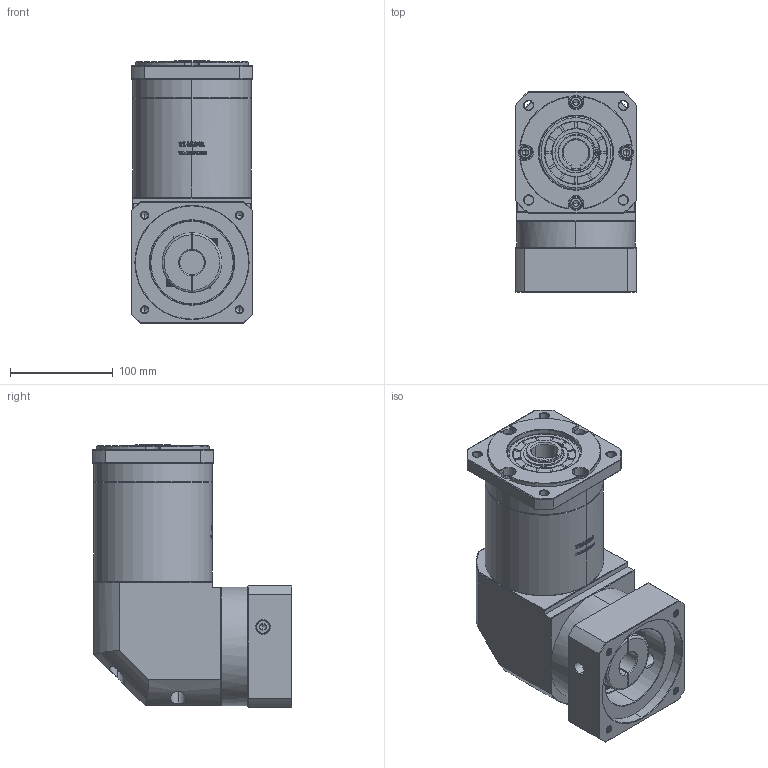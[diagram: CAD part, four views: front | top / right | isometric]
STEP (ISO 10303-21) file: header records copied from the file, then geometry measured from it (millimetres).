
FILE_DESCRIPTION (( 'STEP AP214' ), '1' );
FILE_NAME ('ZFR120A-K25-L3-24-110-130-M8.step', '2023-03-08T08:33:45', ( '' ), ( '' ), 'SwSTEP 2.0', 'SolidWorks 2016', '' );
FILE_SCHEMA (( 'AUTOMOTIVE_DESIGN' ));
Length unit declared in the file: millimetre
Products named in the file (1): ZFR120A-K25-L3-24-110-130-M8
Bounding box: 118 x 193.9 x 255 mm (x, y, z)
Volume: 3417899.6 mm3; surface area: 262725.9 mm2
Topology: 6 solids, 6 shells, 2814 faces, 7535 edges, 4866 vertices
Faces by surface type: plane 1477, bspline 597, cylinder 401, cone 331, torus 8
Entity records: 152484 total; most frequent: CARTESIAN_POINT 56817, ORIENTED_EDGE 15014, DIRECTION 10945, EDGE_CURVE 7507, VERTEX_POINT 4866, VECTOR 4697, LINE 4697, AXIS2_PLACEMENT_3D 3124
